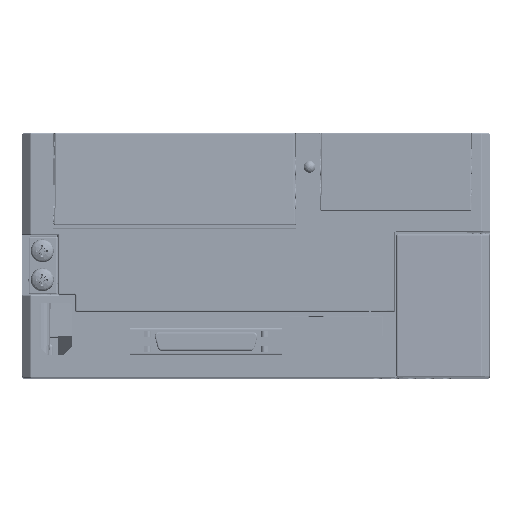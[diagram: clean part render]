
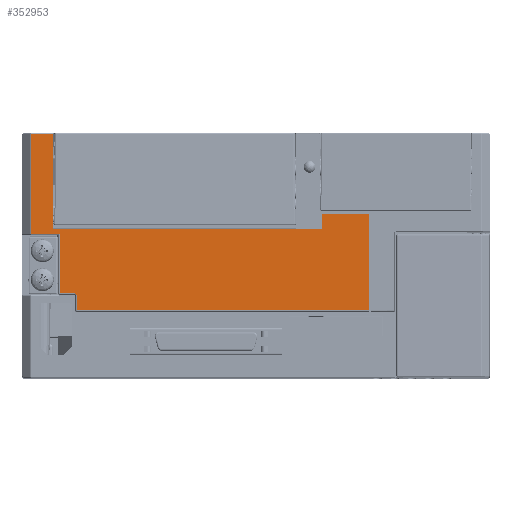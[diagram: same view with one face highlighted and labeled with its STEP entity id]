
A CAD part, top view. The second image highlights one B-rep face of the part: STEP entity #352953.
In plain terms, the highlighted planar face has unit normal (0, 0, 1).
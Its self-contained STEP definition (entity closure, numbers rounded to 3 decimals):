
#350997=CARTESIAN_POINT('',(-103.008,-43.558,190.0));
#350998=VERTEX_POINT('',#350997);
#351015=CARTESIAN_POINT('',(-102.008,-44.558,190.0));
#351016=VERTEX_POINT('',#351015);
#351024=CARTESIAN_POINT('',(-103.009,-44.559,190.0));
#351025=DIRECTION('',(0.0,0.0,1.0));
#351026=DIRECTION('',(0.707,0.707,0.0));
#351027=AXIS2_PLACEMENT_3D('',#351024,#351025,#351026);
#351028=ELLIPSE('',#351027,1.001,1.);
#351029=EDGE_CURVE('',#351016,#350998,#351028,.T.);
#351073=CARTESIAN_POINT('',(-102.008,-49.5,190.0));
#351074=VERTEX_POINT('',#351073);
#351107=CARTESIAN_POINT('',(-102.008,-49.5,190.0));
#351108=DIRECTION('',(0.0,1.0,0.0));
#351109=VECTOR('',#351108,4.942);
#351110=LINE('',#351107,#351109);
#351111=EDGE_CURVE('',#351074,#351016,#351110,.T.);
#351162=CARTESIAN_POINT('',(-0.8,-49.5,190.0));
#351163=VERTEX_POINT('',#351162);
#351171=CARTESIAN_POINT('',(-0.8,-49.5,190.0));
#351172=DIRECTION('',(-1.0,0.0,0.0));
#351173=VECTOR('',#351172,101.208);
#351174=LINE('',#351171,#351173);
#351175=EDGE_CURVE('',#351163,#351074,#351174,.T.);
#351209=CARTESIAN_POINT('',(-110.275,11.5,190.0));
#351210=VERTEX_POINT('',#351209);
#351236=CARTESIAN_POINT('',(-108.,-43.558,190.0));
#351237=VERTEX_POINT('',#351236);
#351276=CARTESIAN_POINT('',(-117.793,11.5,190.0));
#351277=VERTEX_POINT('',#351276);
#351300=CARTESIAN_POINT('',(-117.793,-23.,190.0));
#351301=VERTEX_POINT('',#351300);
#351448=CARTESIAN_POINT('',(-117.793,-23.,190.0));
#351449=DIRECTION('',(0.0,1.0,0.0));
#351450=VECTOR('',#351449,34.5);
#351451=LINE('',#351448,#351450);
#351452=EDGE_CURVE('',#351301,#351277,#351451,.T.);
#351462=CARTESIAN_POINT('',(-108.0,-23.,190.0));
#351463=VERTEX_POINT('',#351462);
#351464=CARTESIAN_POINT('',(-108.0,-23.,190.0));
#351465=DIRECTION('',(-1.0,0.0,0.0));
#351466=VECTOR('',#351465,9.793);
#351467=LINE('',#351464,#351466);
#351468=EDGE_CURVE('',#351463,#351301,#351467,.T.);
#351564=CARTESIAN_POINT('',(-117.793,11.5,190.0));
#351565=DIRECTION('',(1.0,0.0,0.0));
#351566=VECTOR('',#351565,7.518);
#351567=LINE('',#351564,#351566);
#351568=EDGE_CURVE('',#351277,#351210,#351567,.T.);
#351581=CARTESIAN_POINT('',(-108.,-43.558,190.0));
#351582=DIRECTION('',(0.0,1.0,0.0));
#351583=VECTOR('',#351582,20.558);
#351584=LINE('',#351581,#351583);
#351585=EDGE_CURVE('',#351237,#351463,#351584,.T.);
#351597=CARTESIAN_POINT('',(-103.008,-43.558,190.0));
#351598=DIRECTION('',(-1.0,0.0,0.0));
#351599=VECTOR('',#351598,4.992);
#351600=LINE('',#351597,#351599);
#351601=EDGE_CURVE('',#350998,#351237,#351600,.T.);
#351759=CARTESIAN_POINT('',(-110.275,-21.157,190.0));
#351760=VERTEX_POINT('',#351759);
#351761=CARTESIAN_POINT('',(-110.275,-21.157,190.0));
#351762=DIRECTION('',(0.0,1.0,0.0));
#351763=VECTOR('',#351762,32.657);
#351764=LINE('',#351761,#351763);
#351765=EDGE_CURVE('',#351760,#351210,#351764,.T.);
#352542=CARTESIAN_POINT('',(-0.8,-16.131,190.0));
#352543=VERTEX_POINT('',#352542);
#352550=CARTESIAN_POINT('',(-0.8,-49.5,190.0));
#352551=DIRECTION('',(0.0,1.0,0.0));
#352552=VECTOR('',#352551,33.369);
#352553=LINE('',#352550,#352552);
#352554=EDGE_CURVE('',#351163,#352543,#352553,.T.);
#352872=CARTESIAN_POINT('',(-17.2,-21.157,190.0));
#352873=VERTEX_POINT('',#352872);
#352880=CARTESIAN_POINT('',(-17.2,-16.131,190.0));
#352881=VERTEX_POINT('',#352880);
#352882=CARTESIAN_POINT('',(-17.2,-16.131,190.0));
#352883=DIRECTION('',(0.0,-1.0,0.0));
#352884=VECTOR('',#352883,5.026);
#352885=LINE('',#352882,#352884);
#352886=EDGE_CURVE('',#352881,#352873,#352885,.T.);
#352908=CARTESIAN_POINT('',(-0.8,-16.131,190.0));
#352909=DIRECTION('',(-1.0,0.0,0.0));
#352910=VECTOR('',#352909,16.4);
#352911=LINE('',#352908,#352910);
#352912=EDGE_CURVE('',#352543,#352881,#352911,.T.);
#352928=CARTESIAN_POINT('',(-44.693,-25.631,190.0));
#352929=DIRECTION('',(0.0,0.0,1.0));
#352930=DIRECTION('',(-1.0,0.0,0.0));
#352931=AXIS2_PLACEMENT_3D('',#352928,#352929,#352930);
#352932=PLANE('',#352931);
#352933=ORIENTED_EDGE('',*,*,#351175,.F.);
#352934=ORIENTED_EDGE('',*,*,#352554,.T.);
#352935=ORIENTED_EDGE('',*,*,#352912,.T.);
#352936=ORIENTED_EDGE('',*,*,#352886,.T.);
#352937=CARTESIAN_POINT('',(-17.2,-21.157,190.0));
#352938=DIRECTION('',(-1.0,0.0,0.0));
#352939=VECTOR('',#352938,93.075);
#352940=LINE('',#352937,#352939);
#352941=EDGE_CURVE('',#352873,#351760,#352940,.T.);
#352942=ORIENTED_EDGE('',*,*,#352941,.T.);
#352943=ORIENTED_EDGE('',*,*,#351765,.T.);
#352944=ORIENTED_EDGE('',*,*,#351568,.F.);
#352945=ORIENTED_EDGE('',*,*,#351452,.F.);
#352946=ORIENTED_EDGE('',*,*,#351468,.F.);
#352947=ORIENTED_EDGE('',*,*,#351585,.F.);
#352948=ORIENTED_EDGE('',*,*,#351601,.F.);
#352949=ORIENTED_EDGE('',*,*,#351029,.F.);
#352950=ORIENTED_EDGE('',*,*,#351111,.F.);
#352951=EDGE_LOOP('',(#352933,#352934,#352935,#352936,#352942,#352943,#352944,#352945,#352946,#352947,#352948,#352949,#352950));
#352952=FACE_OUTER_BOUND('',#352951,.T.);
#352953=ADVANCED_FACE('',(#352952),#352932,.T.);
